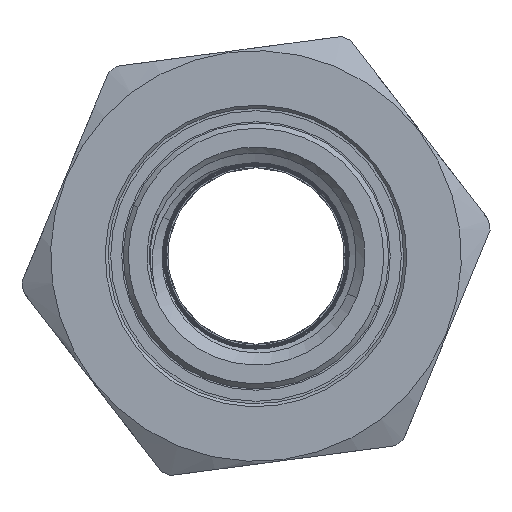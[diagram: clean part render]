
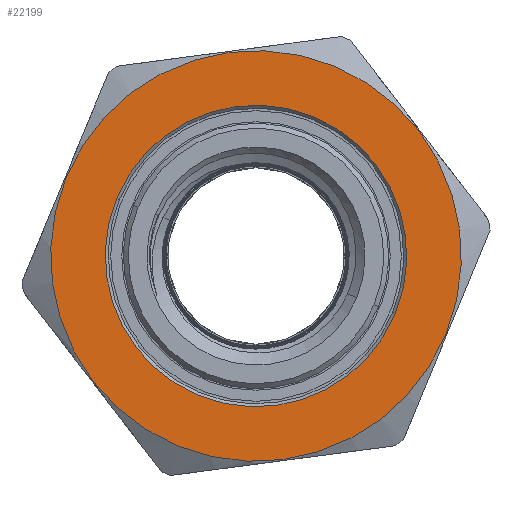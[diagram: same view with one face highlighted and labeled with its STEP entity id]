
A CAD part, left-side view. The second image highlights one B-rep face of the part: STEP entity #22199.
In plain terms, the highlighted planar face has unit normal (-1, 0, 0).
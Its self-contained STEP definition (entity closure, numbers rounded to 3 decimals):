
#16963 = VERTEX_POINT('',#16964);
#16964 = CARTESIAN_POINT('',(-44.846,28.184,
    -11.093));
#16971 = CONICAL_SURFACE('',#16972,0.593,0.785);
#16972 = AXIS2_PLACEMENT_3D('',#16973,#16974,#16975);
#16973 = CARTESIAN_POINT('',(-44.846,27.636,
    -11.32));
#16974 = DIRECTION('',(-1.,0.,0.));
#16975 = DIRECTION('',(0.,0.924,0.382));
#16983 = CONICAL_SURFACE('',#16984,0.593,0.785);
#16984 = AXIS2_PLACEMENT_3D('',#16985,#16986,#16987);
#16985 = CARTESIAN_POINT('',(-44.846,27.636,
    -11.32));
#16986 = DIRECTION('',(-1.,0.,0.));
#16987 = DIRECTION('',(0.,0.924,0.382));
#16995 = EDGE_CURVE('',#16963,#16996,#16998,.T.);
#16996 = VERTEX_POINT('',#16997);
#16997 = CARTESIAN_POINT('',(-44.846,27.088,
    -11.546));
#16998 = SURFACE_CURVE('',#16999,(#17004,#17011),.PCURVE_S1.);
#16999 = CIRCLE('',#17000,0.593);
#17000 = AXIS2_PLACEMENT_3D('',#17001,#17002,#17003);
#17001 = CARTESIAN_POINT('',(-44.846,27.636,
    -11.32));
#17002 = DIRECTION('',(1.,0.,0.));
#17003 = DIRECTION('',(0.,-0.924,-0.382));
#17004 = PCURVE('',#16971,#17005);
#17005 = DEFINITIONAL_REPRESENTATION('',(#17006),#17010);
#17006 = LINE('',#17007,#17008);
#17007 = CARTESIAN_POINT('',(9.425,0.));
#17008 = VECTOR('',#17009,1.);
#17009 = DIRECTION('',(-1.,0.));
#17010 = ( GEOMETRIC_REPRESENTATION_CONTEXT(2) 
PARAMETRIC_REPRESENTATION_CONTEXT() REPRESENTATION_CONTEXT('2D SPACE',''
  ) );
#17011 = PCURVE('',#17012,#17017);
#17012 = PLANE('',#17013);
#17013 = AXIS2_PLACEMENT_3D('',#17014,#17015,#17016);
#17014 = CARTESIAN_POINT('',(-44.846,27.858,
    -11.857));
#17015 = DIRECTION('',(1.,0.,0.));
#17016 = DIRECTION('',(0.,-0.924,-0.382));
#17017 = DEFINITIONAL_REPRESENTATION('',(#17018),#17022);
#17018 = CIRCLE('',#17019,0.593);
#17019 = AXIS2_PLACEMENT_2D('',#17020,#17021);
#17020 = CARTESIAN_POINT('',(0.,-0.581));
#17021 = DIRECTION('',(1.,0.));
#17022 = ( GEOMETRIC_REPRESENTATION_CONTEXT(2) 
PARAMETRIC_REPRESENTATION_CONTEXT() REPRESENTATION_CONTEXT('2D SPACE',''
  ) );
#17520 = EDGE_CURVE('',#17521,#17523,#17525,.T.);
#17521 = VERTEX_POINT('',#17522);
#17522 = CARTESIAN_POINT('',(-44.846,26.889,
    -11.628));
#17523 = VERTEX_POINT('',#17524);
#17524 = CARTESIAN_POINT('',(-44.846,28.382,
    -11.011));
#17525 = SURFACE_CURVE('',#17526,(#17531,#17543),.PCURVE_S1.);
#17526 = CIRCLE('',#17527,0.808);
#17527 = AXIS2_PLACEMENT_3D('',#17528,#17529,#17530);
#17528 = CARTESIAN_POINT('',(-44.846,27.636,
    -11.32));
#17529 = DIRECTION('',(1.,0.,0.));
#17530 = DIRECTION('',(0.,-0.924,-0.382));
#17531 = PCURVE('',#17532,#17537);
#17532 = CONICAL_SURFACE('',#17533,1.,1.047);
#17533 = AXIS2_PLACEMENT_3D('',#17534,#17535,#17536);
#17534 = CARTESIAN_POINT('',(-44.735,27.636,
    -11.32));
#17535 = DIRECTION('',(1.,0.,0.));
#17536 = DIRECTION('',(0.,-0.924,-0.382));
#17537 = DEFINITIONAL_REPRESENTATION('',(#17538),#17542);
#17538 = LINE('',#17539,#17540);
#17539 = CARTESIAN_POINT('',(0.,-0.111));
#17540 = VECTOR('',#17541,1.);
#17541 = DIRECTION('',(1.,0.));
#17542 = ( GEOMETRIC_REPRESENTATION_CONTEXT(2) 
PARAMETRIC_REPRESENTATION_CONTEXT() REPRESENTATION_CONTEXT('2D SPACE',''
  ) );
#17543 = PCURVE('',#17012,#17544);
#17544 = DEFINITIONAL_REPRESENTATION('',(#17545),#17549);
#17545 = CIRCLE('',#17546,0.808);
#17546 = AXIS2_PLACEMENT_2D('',#17547,#17548);
#17547 = CARTESIAN_POINT('',(0.,-0.581));
#17548 = DIRECTION('',(1.,0.));
#17549 = ( GEOMETRIC_REPRESENTATION_CONTEXT(2) 
PARAMETRIC_REPRESENTATION_CONTEXT() REPRESENTATION_CONTEXT('2D SPACE',''
  ) );
#17567 = CONICAL_SURFACE('',#17568,1.,1.047);
#17568 = AXIS2_PLACEMENT_3D('',#17569,#17570,#17571);
#17569 = CARTESIAN_POINT('',(-44.735,27.636,
    -11.32));
#17570 = DIRECTION('',(1.,0.,0.));
#17571 = DIRECTION('',(0.,-0.924,-0.382));
#22199 = ADVANCED_FACE('',(#22200,#22225),#17012,.F.);
#22200 = FACE_BOUND('',#22201,.T.);
#22201 = EDGE_LOOP('',(#22202,#22203));
#22202 = ORIENTED_EDGE('',*,*,#16995,.T.);
#22203 = ORIENTED_EDGE('',*,*,#22204,.T.);
#22204 = EDGE_CURVE('',#16996,#16963,#22205,.T.);
#22205 = SURFACE_CURVE('',#22206,(#22211,#22218),.PCURVE_S1.);
#22206 = CIRCLE('',#22207,0.593);
#22207 = AXIS2_PLACEMENT_3D('',#22208,#22209,#22210);
#22208 = CARTESIAN_POINT('',(-44.846,27.636,
    -11.32));
#22209 = DIRECTION('',(1.,0.,0.));
#22210 = DIRECTION('',(0.,-0.924,-0.382));
#22211 = PCURVE('',#17012,#22212);
#22212 = DEFINITIONAL_REPRESENTATION('',(#22213),#22217);
#22213 = CIRCLE('',#22214,0.593);
#22214 = AXIS2_PLACEMENT_2D('',#22215,#22216);
#22215 = CARTESIAN_POINT('',(0.,-0.581));
#22216 = DIRECTION('',(1.,0.));
#22217 = ( GEOMETRIC_REPRESENTATION_CONTEXT(2) 
PARAMETRIC_REPRESENTATION_CONTEXT() REPRESENTATION_CONTEXT('2D SPACE',''
  ) );
#22218 = PCURVE('',#16983,#22219);
#22219 = DEFINITIONAL_REPRESENTATION('',(#22220),#22224);
#22220 = LINE('',#22221,#22222);
#22221 = CARTESIAN_POINT('',(3.142,0.));
#22222 = VECTOR('',#22223,1.);
#22223 = DIRECTION('',(-1.,0.));
#22224 = ( GEOMETRIC_REPRESENTATION_CONTEXT(2) 
PARAMETRIC_REPRESENTATION_CONTEXT() REPRESENTATION_CONTEXT('2D SPACE',''
  ) );
#22225 = FACE_BOUND('',#22226,.T.);
#22226 = EDGE_LOOP('',(#22227,#22228));
#22227 = ORIENTED_EDGE('',*,*,#17520,.F.);
#22228 = ORIENTED_EDGE('',*,*,#22229,.F.);
#22229 = EDGE_CURVE('',#17523,#17521,#22230,.T.);
#22230 = SURFACE_CURVE('',#22231,(#22236,#22243),.PCURVE_S1.);
#22231 = CIRCLE('',#22232,0.808);
#22232 = AXIS2_PLACEMENT_3D('',#22233,#22234,#22235);
#22233 = CARTESIAN_POINT('',(-44.846,27.636,
    -11.32));
#22234 = DIRECTION('',(1.,0.,0.));
#22235 = DIRECTION('',(0.,-0.924,-0.382));
#22236 = PCURVE('',#17012,#22237);
#22237 = DEFINITIONAL_REPRESENTATION('',(#22238),#22242);
#22238 = CIRCLE('',#22239,0.808);
#22239 = AXIS2_PLACEMENT_2D('',#22240,#22241);
#22240 = CARTESIAN_POINT('',(0.,-0.581));
#22241 = DIRECTION('',(1.,0.));
#22242 = ( GEOMETRIC_REPRESENTATION_CONTEXT(2) 
PARAMETRIC_REPRESENTATION_CONTEXT() REPRESENTATION_CONTEXT('2D SPACE',''
  ) );
#22243 = PCURVE('',#17567,#22244);
#22244 = DEFINITIONAL_REPRESENTATION('',(#22245),#22249);
#22245 = LINE('',#22246,#22247);
#22246 = CARTESIAN_POINT('',(0.,-0.111));
#22247 = VECTOR('',#22248,1.);
#22248 = DIRECTION('',(1.,0.));
#22249 = ( GEOMETRIC_REPRESENTATION_CONTEXT(2) 
PARAMETRIC_REPRESENTATION_CONTEXT() REPRESENTATION_CONTEXT('2D SPACE',''
  ) );
